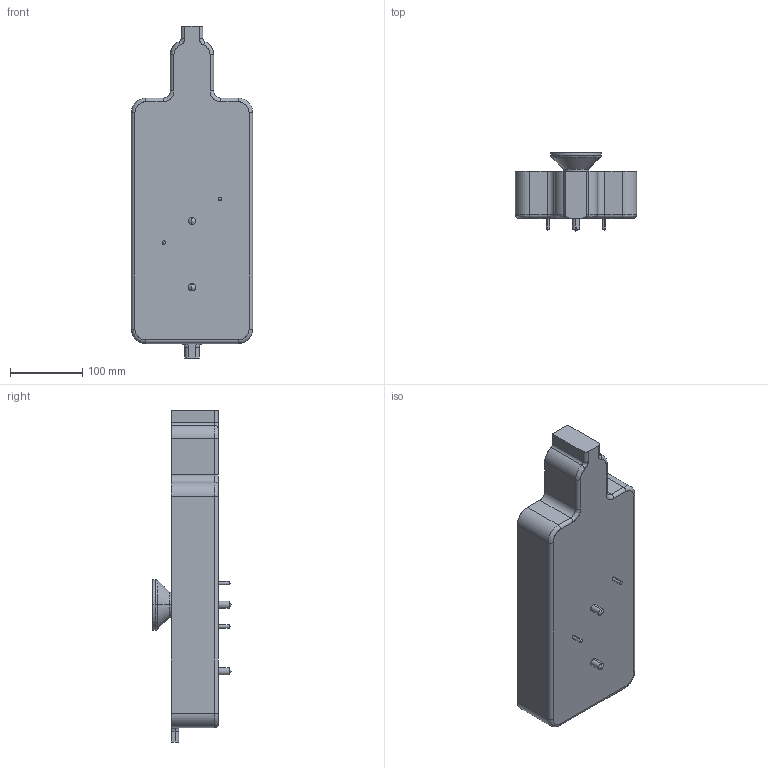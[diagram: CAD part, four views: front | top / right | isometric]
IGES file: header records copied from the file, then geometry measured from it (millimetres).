
Start section: SolidWorks IGES file using analytic representation for surfaces
Global section: file name: F:\CARTELLA CONDIVISA - 3D\01 - Piastre - 3D\Piastre Standard - Resistenza Sezione Quadrata 6x6\LP1-A04\Parte Multicorpo + Positivo Sede\CCLP1AQ-04T\SEDE CCLP1AQ-04T.IGS; native system: SolidWorks 2013; preprocessor: SolidWorks 2013; author: ws-20; date: 140130.144842; units: millimetre
Bounding box: 168 x 108.89 x 460 mm (x, y, z)
Surface area: 207741.2 mm2 (no closed solid volume)
Topology: 0 solids, 0 shells, 76 faces, 715 edges, 884 vertices
Faces by surface type: revolution 45, bspline 31
